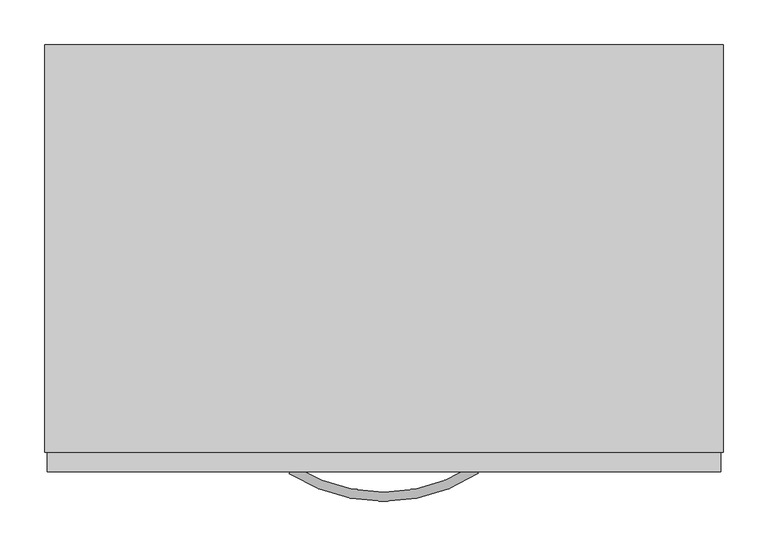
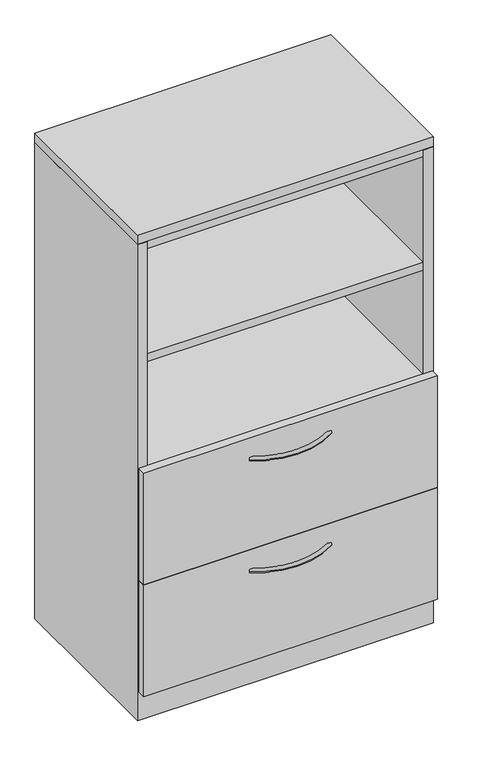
"""IFC4 building model written with IfcOpenShell, lengths in millimetres: furniture geometry, Steelcase - Universal Storage - Cabinet - Combination - Proud Steel : 52H - Open Cabinet/2 Drawers - 18 7/8D x 30W."""

from ifc_helpers import new_model, si_unit, point, frame, origin, place, context, project, spatial, polyline, circle_curve, ellipse_curve, trimmed, outline, extrude, faceted_brep, source, transform, mapped, element, save
from ifc_brep_helpers import plane_surface, revolved_surface, advanced_brep


def furniture_d3e8cc1b(model_context):
    return source(origin(), model_context, "Body", "SolidModel", [
        extrude(outline(polyline([(736.6000242, -25.4000008), (736.6000242, -454.0250121), (25.4000008, -454.0250121), (25.4000008, -25.4000008), (736.6000242, -25.4000008)])), frame((0.0, 0.0, 660.4000242), z_axis=(0.0, 0.0, 1.0), x_axis=(1.0, 0.0, 0.0)), (0.0, 0.0, 1.0), 22.2249516),
        extrude(outline(polyline([(736.6000242, -25.4000008), (736.6000242, -454.0250121), (25.4000008, -454.0250121), (25.4000008, -25.4000008), (736.6000242, -25.4000008)])), frame((0.0, 0.0, 965.2000242), z_axis=(0.0, 0.0, 1.0), x_axis=(1.0, 0.0, 0.0)), (0.0, 0.0, 1.0), 22.2249516),
        extrude(outline(polyline([(736.6000242, -25.4000008), (736.6000242, -454.0250121), (25.4000008, -454.0250121), (25.4000008, -25.4000008), (736.6000242, -25.4000008)])), frame((0.0, 0.0, 1273.1750484), z_axis=(0.0, 0.0, 1.0), x_axis=(1.0, 0.0, 0.0)), (0.0, 0.0, 1.0), 22.2249516),
        advanced_brep(
        [(274.4245932, -481.5705994, 323.56425), (279.8977519, -473.0108019, 323.56425), (486.7315136, -481.1337636, 323.56425), (481.2231767, -472.5965612, 323.56425)],
        [
            (0, 1, circle_curve(frame((277.1611726, -477.2907007, 323.56425), z_axis=(-0.8424997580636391, 0.5386967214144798, 0.0), x_axis=(0.5386967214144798, 0.8424997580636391, 0.0)), 5.08)),
            (1, 0, circle_curve(frame((277.1611726, -477.2907007, 323.56425), z_axis=(-0.8424997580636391, 0.5386967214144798, 0.0), x_axis=(0.5386967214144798, 0.8424997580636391, 0.0)), 5.08)),
            (2, 3, circle_curve(frame((483.9773452, -476.8651624, 323.56425), z_axis=(0.8402758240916, 0.5421591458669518, 0.0), x_axis=(-0.5421591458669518, 0.8402758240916, 0.0)), 5.08)),
            (3, 2, circle_curve(frame((483.9773452, -476.8651624, 323.56425), z_axis=(0.8402758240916, 0.5421591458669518, 0.0), x_axis=(-0.5421591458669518, 0.8402758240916, 0.0)), 5.08)),
            (3, 1, circle_curve(frame((380.2380004, -316.0827352, 323.56425), z_axis=(0.0, 0.0, -1.0), x_axis=(-0.5386967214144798, -0.8424997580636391, 0.0)), 186.2648211)),
            (0, 2, circle_curve(frame((380.2380004, -316.0827352, 323.56425), z_axis=(0.0, 0.0, 1.0), x_axis=(-0.5386967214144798, -0.8424997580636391, 0.0)), 196.4248211)),
        ],
        [
            plane_surface(frame((277.5794521, -476.6365286, 324.358), z_axis=(-0.8424997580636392, 0.5386967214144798, 0.0), x_axis=(0.0, 0.0, 1.0))),
            plane_surface(frame((483.5563772, -476.2127171, 324.358), z_axis=(0.8402758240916, 0.5421591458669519, 0.0), x_axis=(0.0, 0.0, 1.0))),
            revolved_surface(trimmed(ellipse_curve(frame((277.1611726, -477.2907007, 323.56425), z_axis=(-0.8424997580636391, 0.5386967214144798, 0.0), x_axis=(0.5386967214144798, 0.8424997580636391, 0.0)), 5.08, 5.08), [point((274.4245932, -481.5705994, 323.56425))], [point((279.8977519, -473.0108019, 323.56425))], True, "CARTESIAN"), (380.2380004, -316.0827352, 324.358), (0.0, 0.0, 1.0)),
            revolved_surface(trimmed(ellipse_curve(frame((277.1611726, -477.2907007, 323.56425), z_axis=(-0.8424997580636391, 0.5386967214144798, 0.0), x_axis=(0.5386967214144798, 0.8424997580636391, 0.0)), 5.08, 5.08), [point((279.8977519, -473.0108019, 323.56425))], [point((274.4245932, -481.5705994, 323.56425))], True, "CARTESIAN"), (380.2380004, -316.0827352, 324.358), (0.0, 0.0, 1.0)),
        ],
        [
            (0, [[1, 2]]),
            (1, [[3, 4]]),
            (2, [[5, -1, 6, -4]]),
            (3, [[-6, -2, -5, -3]]),
        ],
    ),
        advanced_brep(
        [(274.4245932, -481.5705994, 627.85625), (279.8977519, -473.0108019, 627.85625), (486.7315136, -481.1337636, 627.85625), (481.2231767, -472.5965612, 627.85625)],
        [
            (0, 1, circle_curve(frame((277.1611726, -477.2907007, 627.85625), z_axis=(-0.8424997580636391, 0.5386967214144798, 0.0), x_axis=(0.5386967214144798, 0.8424997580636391, 0.0)), 5.08)),
            (1, 0, circle_curve(frame((277.1611726, -477.2907007, 627.85625), z_axis=(-0.8424997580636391, 0.5386967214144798, 0.0), x_axis=(0.5386967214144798, 0.8424997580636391, 0.0)), 5.08)),
            (2, 3, circle_curve(frame((483.9773452, -476.8651624, 627.85625), z_axis=(0.8402758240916, 0.5421591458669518, 0.0), x_axis=(-0.5421591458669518, 0.8402758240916, 0.0)), 5.08)),
            (3, 2, circle_curve(frame((483.9773452, -476.8651624, 627.85625), z_axis=(0.8402758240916, 0.5421591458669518, 0.0), x_axis=(-0.5421591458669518, 0.8402758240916, 0.0)), 5.08)),
            (3, 1, circle_curve(frame((380.2380004, -316.0827352, 627.85625), z_axis=(0.0, 0.0, -1.0), x_axis=(-0.5386967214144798, -0.8424997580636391, 0.0)), 186.2648211)),
            (0, 2, circle_curve(frame((380.2380004, -316.0827352, 627.85625), z_axis=(0.0, 0.0, 1.0), x_axis=(-0.5386967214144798, -0.8424997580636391, 0.0)), 196.4248211)),
        ],
        [
            plane_surface(frame((277.5794521, -476.6365286, 628.65), z_axis=(-0.8424997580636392, 0.5386967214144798, 0.0), x_axis=(0.0, 0.0, 1.0))),
            plane_surface(frame((483.5563772, -476.2127171, 628.65), z_axis=(0.8402758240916, 0.5421591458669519, 0.0), x_axis=(0.0, 0.0, 1.0))),
            revolved_surface(trimmed(ellipse_curve(frame((277.1611726, -477.2907007, 627.85625), z_axis=(-0.8424997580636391, 0.5386967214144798, 0.0), x_axis=(0.5386967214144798, 0.8424997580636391, 0.0)), 5.08, 5.08), [point((274.4245932, -481.5705994, 627.85625))], [point((279.8977519, -473.0108019, 627.85625))], True, "CARTESIAN"), (380.2380004, -316.0827352, 628.65), (0.0, 0.0, 1.0)),
            revolved_surface(trimmed(ellipse_curve(frame((277.1611726, -477.2907007, 627.85625), z_axis=(-0.8424997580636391, 0.5386967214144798, 0.0), x_axis=(0.5386967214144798, 0.8424997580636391, 0.0)), 5.08, 5.08), [point((279.8977519, -473.0108019, 627.85625))], [point((274.4245932, -481.5705994, 627.85625))], True, "CARTESIAN"), (380.2380004, -316.0827352, 628.65), (0.0, 0.0, 1.0)),
        ],
        [
            (0, [[1, 2]]),
            (1, [[3, 4]]),
            (2, [[5, -1, 6, -4]]),
            (3, [[-6, -2, -5, -3]]),
        ],
    ),
        faceted_brep([(25.4000008, -457.3261219, 76.2), (736.6000242, -457.3261219, 76.2), (736.6000242, -25.4000008, 76.2), (25.4000008, -25.4000008, 76.2), (762.0, 0.0, 0.0), (762.0, -457.3261219, 0.0), (0.0, -457.3261219, 0.0), (0.0, 0.0, 0.0), (0.0, 0.0, 1293.876), (762.0, 0.0, 1293.876), (0.0, -457.3261219, 1293.876), (762.0, -457.3261219, 1293.876), (736.6000242, -457.3261219, 1293.876), (25.4000008, -457.3261219, 1293.876), (736.6000242, -25.4000008, 1293.876), (25.4000008, -25.4000008, 1293.876)], [[[0, 1, 2, 3]], [[4, 5, 6, 7]], [[4, 7, 8, 9]], [[8, 7, 6, 10]], [[10, 6, 5, 11, 12, 1, 0, 13]], [[11, 5, 4, 9]], [[14, 12, 11, 9, 8, 10, 13, 15]], [[12, 14, 2, 1]], [[15, 13, 0, 3]], [[14, 15, 3, 2]]]),
        extrude(outline(polyline([(758.8225413, -479.552), (3.1725353, -479.552), (3.1725353, -457.3261219), (758.8225413, -457.3261219), (758.8225413, -479.552)])), frame((0.0, 0.0, 77.724), z_axis=(0.0, 0.0, 1.0), x_axis=(1.0, 0.0, 0.0)), (0.0, 0.0, 1.0), 303.276),
        extrude(outline(polyline([(758.8225413, -479.552), (3.1725353, -479.552), (3.1725353, -457.3261219), (758.8225413, -457.3261219), (758.8225413, -479.552)])), frame((0.0, 0.0, 382.524), z_axis=(0.0, 0.0, 1.0), x_axis=(1.0, 0.0, 0.0)), (0.0, 0.0, 1.0), 303.276),
        extrude(outline(polyline([(762.0, 0.0), (762.0, -457.3261219), (0.0, -457.3261219), (0.0, 0.0), (762.0, 0.0)])), frame((0.0, 0.0, 1295.3999516), z_axis=(0.0, 0.0, 1.0), x_axis=(1.0, 0.0, 0.0)), (0.0, 0.0, 1.0), 25.4000484),
    ])


if __name__ == "__main__":
    model = new_model("IFC4")
    model_context = context("Model", 3, world=origin())
    ifc_project = project(units=[si_unit("LENGTHUNIT", "METRE", prefix="MILLI")], contexts=[model_context])
    site = spatial("IfcSite", under=ifc_project)
    building = spatial("IfcBuilding", under=site)
    placement = place(None, origin())
    furniture_shape = furniture_d3e8cc1b(model_context)
    element("IfcFurniture", 1, ObjectType="Steelcase - Universal Storage - Cabinet - Combination - Proud Steel : 52H - Open Cabinet/2 Drawers - 18 7/8D x 30W", at=placement, inside=building, context=model_context, shape_type="MappedRepresentation", body=[
        mapped(furniture_shape, transform((0.0, 0.0, 0.0), x_axis=(1.0, 0.0, 0.0), y_axis=(0.0, 1.0, 0.0), z_axis=(0.0, 0.0, 1.0))),
    ])
    save(model, "model.ifc")
